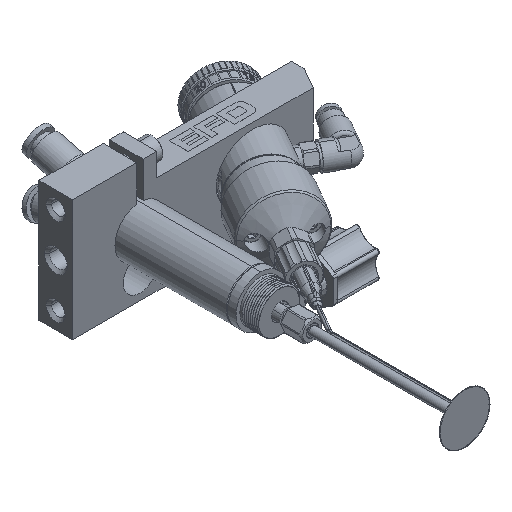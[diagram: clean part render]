
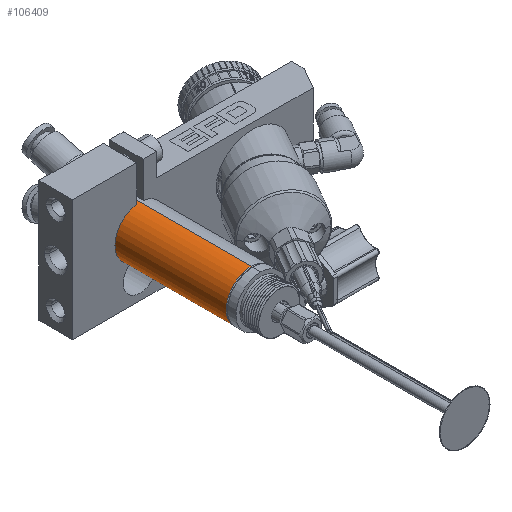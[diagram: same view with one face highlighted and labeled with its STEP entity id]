
A CAD part, isometric view. The second image highlights one B-rep face of the part: STEP entity #106409.
In plain terms, the highlighted cylindrical face has radius 9.398 mm (diameter 18.796 mm), a partial arc.
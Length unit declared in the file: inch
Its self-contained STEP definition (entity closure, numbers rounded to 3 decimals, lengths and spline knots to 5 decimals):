
#124 = AXIS2_PLACEMENT_3D ( 'NONE', #84539, #86393, #58004 ) ;
#1261 = EDGE_LOOP ( 'NONE', ( #30726, #102842, #30574, #11945 ) ) ;
#3771 = VECTOR ( 'NONE', #60421, 39.37008 ) ;
#4572 = VECTOR ( 'NONE', #23836, 39.37008 ) ;
#6157 = LINE ( 'NONE', #16877, #4572 ) ;
#7582 = VERTEX_POINT ( 'NONE', #99396 ) ;
#11523 = AXIS2_PLACEMENT_3D ( 'NONE', #66275, #104684, #123586 ) ;
#11945 = ORIENTED_EDGE ( 'NONE', *, *, #88494, .F. ) ;
#12739 = VERTEX_POINT ( 'NONE', #18667 ) ;
#15868 = AXIS2_PLACEMENT_3D ( 'NONE', #112342, #17839, #54987 ) ;
#16877 = CARTESIAN_POINT ( 'NONE',  ( 0.37, -0.67061, 0. ) ) ;
#17839 = DIRECTION ( 'NONE',  ( 0., -1., 0. ) ) ;
#18667 = CARTESIAN_POINT ( 'NONE',  ( 0.37, 0.145, 0. ) ) ;
#23836 = DIRECTION ( 'NONE',  ( 0., -1., 0. ) ) ;
#30574 = ORIENTED_EDGE ( 'NONE', *, *, #61693, .T. ) ;
#30726 = ORIENTED_EDGE ( 'NONE', *, *, #109170, .F. ) ;
#38635 = EDGE_CURVE ( 'NONE', #53340, #7582, #69911, .T. ) ;
#52480 = CIRCLE ( 'NONE', #124, 0.37 ) ;
#53340 = VERTEX_POINT ( 'NONE', #61418 ) ;
#54987 = DIRECTION ( 'NONE',  ( 1., 0., 0. ) ) ;
#58004 = DIRECTION ( 'NONE',  ( 1., 0., 0. ) ) ;
#60421 = DIRECTION ( 'NONE',  ( 0., -1., 0. ) ) ;
#61418 = CARTESIAN_POINT ( 'NONE',  ( -0.37, 2.18, 0. ) ) ;
#61693 = EDGE_CURVE ( 'NONE', #7582, #12739, #6157, .T. ) ;
#66275 = CARTESIAN_POINT ( 'NONE',  ( 0., 2.18, 0. ) ) ;
#67451 = CARTESIAN_POINT ( 'NONE',  ( -0.37, 0.145, 0. ) ) ;
#69911 = CIRCLE ( 'NONE', #11523, 0.37 ) ;
#73309 = CYLINDRICAL_SURFACE ( 'NONE', #15868, 0.37 ) ;
#84539 = CARTESIAN_POINT ( 'NONE',  ( 0., 0.145, 0. ) ) ;
#86393 = DIRECTION ( 'NONE',  ( 0., -1., 0. ) ) ;
#88494 = EDGE_CURVE ( 'NONE', #120990, #12739, #52480, .T. ) ;
#98852 = CARTESIAN_POINT ( 'NONE',  ( -0.37, -0.67061, 0. ) ) ;
#99396 = CARTESIAN_POINT ( 'NONE',  ( 0.37, 2.18, 0. ) ) ;
#102842 = ORIENTED_EDGE ( 'NONE', *, *, #38635, .T. ) ;
#104684 = DIRECTION ( 'NONE',  ( 0., -1., 0. ) ) ;
#106409 = ADVANCED_FACE ( 'NONE', ( #121787 ), #73309, .T. ) ;
#109170 = EDGE_CURVE ( 'NONE', #53340, #120990, #116537, .T. ) ;
#112342 = CARTESIAN_POINT ( 'NONE',  ( 0., -0.67061, 0. ) ) ;
#116537 = LINE ( 'NONE', #98852, #3771 ) ;
#120990 = VERTEX_POINT ( 'NONE', #67451 ) ;
#121787 = FACE_OUTER_BOUND ( 'NONE', #1261, .T. ) ;
#123586 = DIRECTION ( 'NONE',  ( 1., 0., 0. ) ) ;
